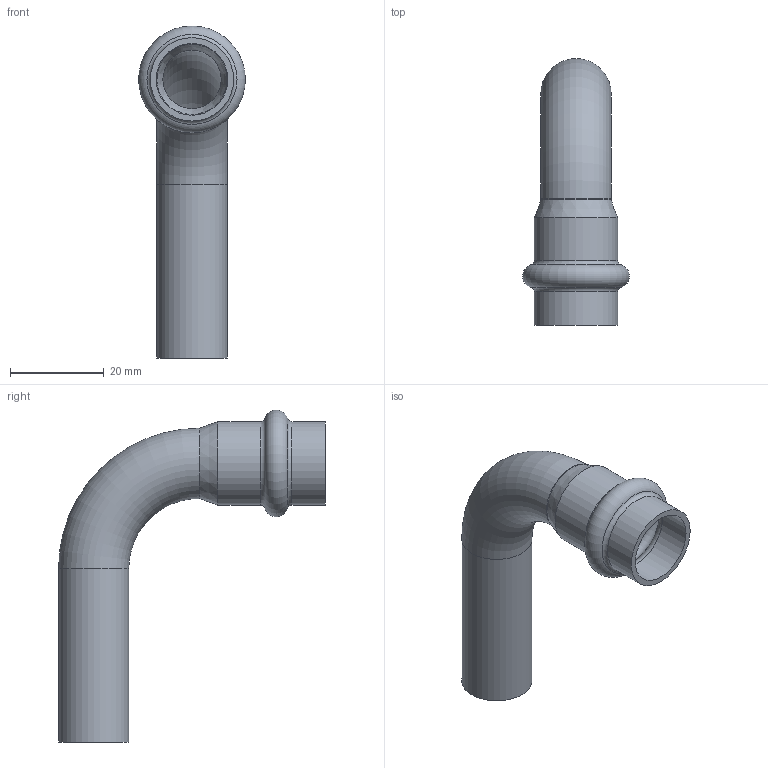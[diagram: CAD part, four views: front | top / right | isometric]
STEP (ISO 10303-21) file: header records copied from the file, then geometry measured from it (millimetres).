
FILE_DESCRIPTION(('STEP AP203'), '1');
FILE_NAME('VTi.950.I.001515', '', ('UNSPECIFIED'), ('UNSPECIFIED'), 'C3D Converter', 'C3D Toolkit', '');
FILE_SCHEMA(('CONFIG_CONTROL_DESIGN'));
Length unit declared in the file: millimetre
Products named in the file (1): ВР.302661.024.000 СБ
Bounding box: 22.8 x 57 x 70.9 mm (x, y, z)
Volume: 6158.2 mm3; surface area: 9948.5 mm2
Topology: 1 solids, 1 shells, 21 faces, 44 edges, 25 vertices
Faces by surface type: torus 9, cylinder 8, plane 2, cone 2
Full cylindrical faces by diameter (mm): 12.5 x2, 15 x2, 15.3 x2, 17.8 x2
Entity records: 508 total; most frequent: DIRECTION 94, CARTESIAN_POINT 72, ORIENTED_EDGE 50, AXIS2_PLACEMENT_3D 47, EDGE_LOOP 42, FACE_OUTER_BOUND 30, EDGE_CURVE 25, VERTEX_POINT 25
